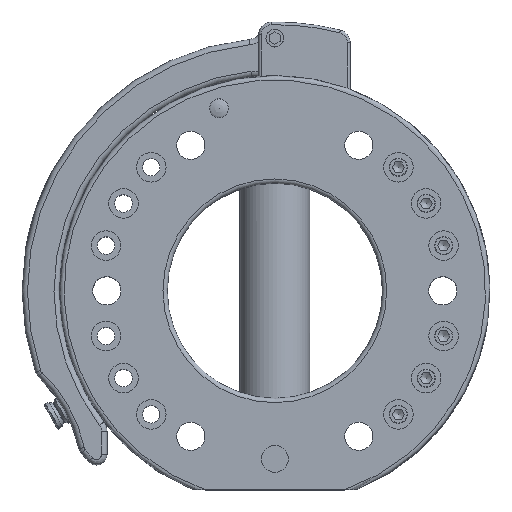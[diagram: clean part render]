
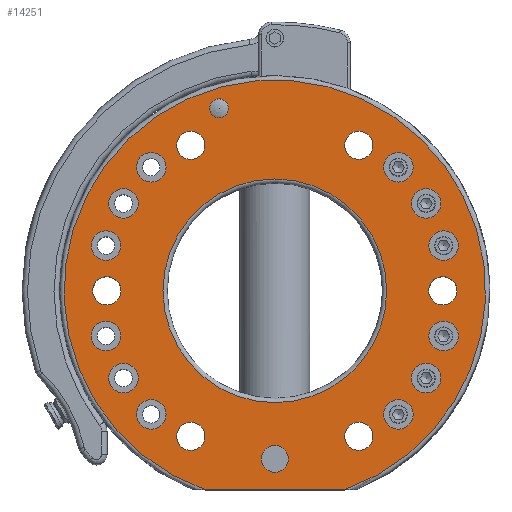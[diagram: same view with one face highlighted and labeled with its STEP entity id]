
A CAD part, top view. The second image highlights one B-rep face of the part: STEP entity #14251.
In plain terms, the highlighted planar face has unit normal (0, 0, 1).
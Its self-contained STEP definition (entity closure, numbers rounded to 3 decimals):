
#912=FACE_BOUND('',#3104,.T.);
#913=FACE_BOUND('',#3105,.T.);
#914=FACE_BOUND('',#3106,.T.);
#915=FACE_BOUND('',#3107,.T.);
#916=FACE_BOUND('',#3108,.T.);
#917=FACE_BOUND('',#3109,.T.);
#918=FACE_BOUND('',#3110,.T.);
#919=FACE_BOUND('',#3111,.T.);
#920=FACE_BOUND('',#3112,.T.);
#921=FACE_BOUND('',#3113,.T.);
#922=FACE_BOUND('',#3114,.T.);
#923=FACE_BOUND('',#3115,.T.);
#924=FACE_BOUND('',#3116,.T.);
#925=FACE_BOUND('',#3117,.T.);
#926=FACE_BOUND('',#3118,.T.);
#927=FACE_BOUND('',#3119,.T.);
#928=FACE_BOUND('',#3120,.T.);
#929=FACE_BOUND('',#3121,.T.);
#930=FACE_BOUND('',#3122,.T.);
#931=FACE_BOUND('',#3123,.T.);
#932=FACE_BOUND('',#3124,.T.);
#1222=PLANE('',#15475);
#2174=FACE_OUTER_BOUND('',#3103,.T.);
#3103=EDGE_LOOP('',(#12264,#12265));
#3104=EDGE_LOOP('',(#12266));
#3105=EDGE_LOOP('',(#12267));
#3106=EDGE_LOOP('',(#12268));
#3107=EDGE_LOOP('',(#12269));
#3108=EDGE_LOOP('',(#12270));
#3109=EDGE_LOOP('',(#12271));
#3110=EDGE_LOOP('',(#12272));
#3111=EDGE_LOOP('',(#12273));
#3112=EDGE_LOOP('',(#12274));
#3113=EDGE_LOOP('',(#12275));
#3114=EDGE_LOOP('',(#12276));
#3115=EDGE_LOOP('',(#12277));
#3116=EDGE_LOOP('',(#12278));
#3117=EDGE_LOOP('',(#12279));
#3118=EDGE_LOOP('',(#12280));
#3119=EDGE_LOOP('',(#12281));
#3120=EDGE_LOOP('',(#12282));
#3121=EDGE_LOOP('',(#12283));
#3122=EDGE_LOOP('',(#12284));
#3123=EDGE_LOOP('',(#12285));
#3124=EDGE_LOOP('',(#12286));
#3968=LINE('',#62548,#4747);
#4747=VECTOR('',#18572,10.);
#5240=CIRCLE('',#15329,5.5);
#5243=CIRCLE('',#15334,5.5);
#5246=CIRCLE('',#15339,5.5);
#5249=CIRCLE('',#15344,5.5);
#5251=CIRCLE('',#15348,5.5);
#5253=CIRCLE('',#15352,5.5);
#5255=CIRCLE('',#15356,5.5);
#5257=CIRCLE('',#15360,5.5);
#5259=CIRCLE('',#15364,5.5);
#5261=CIRCLE('',#15368,5.5);
#5264=CIRCLE('',#15373,5.5);
#5267=CIRCLE('',#15378,5.5);
#5281=CIRCLE('',#15409,5.25);
#5284=CIRCLE('',#15415,5.25);
#5287=CIRCLE('',#15421,5.25);
#5289=CIRCLE('',#15425,5.25);
#5292=CIRCLE('',#15431,5.25);
#5295=CIRCLE('',#15437,5.25);
#5296=CIRCLE('',#15439,3.5);
#5297=CIRCLE('',#15441,5.);
#5312=CIRCLE('',#15473,41.6);
#5314=CIRCLE('',#15476,78.4);
#6548=VERTEX_POINT('',#62266);
#6551=VERTEX_POINT('',#62275);
#6554=VERTEX_POINT('',#62284);
#6557=VERTEX_POINT('',#62293);
#6559=VERTEX_POINT('',#62300);
#6561=VERTEX_POINT('',#62307);
#6563=VERTEX_POINT('',#62314);
#6565=VERTEX_POINT('',#62321);
#6567=VERTEX_POINT('',#62328);
#6569=VERTEX_POINT('',#62335);
#6572=VERTEX_POINT('',#62344);
#6575=VERTEX_POINT('',#62353);
#6589=VERTEX_POINT('',#62413);
#6592=VERTEX_POINT('',#62424);
#6595=VERTEX_POINT('',#62435);
#6597=VERTEX_POINT('',#62442);
#6600=VERTEX_POINT('',#62453);
#6603=VERTEX_POINT('',#62464);
#6604=VERTEX_POINT('',#62468);
#6605=VERTEX_POINT('',#62472);
#6625=VERTEX_POINT('',#62534);
#6626=VERTEX_POINT('',#62547);
#6628=VERTEX_POINT('',#62566);
#8409=EDGE_CURVE('',#6548,#6548,#5240,.T.);
#8413=EDGE_CURVE('',#6551,#6551,#5243,.T.);
#8417=EDGE_CURVE('',#6554,#6554,#5246,.T.);
#8421=EDGE_CURVE('',#6557,#6557,#5249,.T.);
#8424=EDGE_CURVE('',#6559,#6559,#5251,.T.);
#8427=EDGE_CURVE('',#6561,#6561,#5253,.T.);
#8430=EDGE_CURVE('',#6563,#6563,#5255,.T.);
#8433=EDGE_CURVE('',#6565,#6565,#5257,.T.);
#8436=EDGE_CURVE('',#6567,#6567,#5259,.T.);
#8439=EDGE_CURVE('',#6569,#6569,#5261,.T.);
#8443=EDGE_CURVE('',#6572,#6572,#5264,.T.);
#8447=EDGE_CURVE('',#6575,#6575,#5267,.T.);
#8477=EDGE_CURVE('',#6589,#6589,#5281,.T.);
#8482=EDGE_CURVE('',#6592,#6592,#5284,.T.);
#8487=EDGE_CURVE('',#6595,#6595,#5287,.T.);
#8490=EDGE_CURVE('',#6597,#6597,#5289,.T.);
#8495=EDGE_CURVE('',#6600,#6600,#5292,.T.);
#8500=EDGE_CURVE('',#6603,#6603,#5295,.T.);
#8501=EDGE_CURVE('',#6604,#6604,#5296,.T.);
#8503=EDGE_CURVE('',#6605,#6605,#5297,.T.);
#8531=EDGE_CURVE('',#6626,#6625,#3968,.T.);
#8535=EDGE_CURVE('',#6628,#6628,#5312,.T.);
#8537=EDGE_CURVE('',#6626,#6625,#5314,.T.);
#12264=ORIENTED_EDGE('',*,*,#8531,.T.);
#12265=ORIENTED_EDGE('',*,*,#8537,.F.);
#12266=ORIENTED_EDGE('',*,*,#8409,.T.);
#12267=ORIENTED_EDGE('',*,*,#8413,.T.);
#12268=ORIENTED_EDGE('',*,*,#8417,.T.);
#12269=ORIENTED_EDGE('',*,*,#8421,.T.);
#12270=ORIENTED_EDGE('',*,*,#8424,.T.);
#12271=ORIENTED_EDGE('',*,*,#8427,.T.);
#12272=ORIENTED_EDGE('',*,*,#8430,.T.);
#12273=ORIENTED_EDGE('',*,*,#8433,.T.);
#12274=ORIENTED_EDGE('',*,*,#8436,.T.);
#12275=ORIENTED_EDGE('',*,*,#8439,.T.);
#12276=ORIENTED_EDGE('',*,*,#8443,.T.);
#12277=ORIENTED_EDGE('',*,*,#8447,.T.);
#12278=ORIENTED_EDGE('',*,*,#8477,.T.);
#12279=ORIENTED_EDGE('',*,*,#8482,.T.);
#12280=ORIENTED_EDGE('',*,*,#8487,.T.);
#12281=ORIENTED_EDGE('',*,*,#8490,.T.);
#12282=ORIENTED_EDGE('',*,*,#8495,.T.);
#12283=ORIENTED_EDGE('',*,*,#8500,.T.);
#12284=ORIENTED_EDGE('',*,*,#8501,.T.);
#12285=ORIENTED_EDGE('',*,*,#8503,.T.);
#12286=ORIENTED_EDGE('',*,*,#8535,.F.);
#14251=ADVANCED_FACE('',(#2174,#912,#913,#914,#915,#916,#917,#918,#919,
#920,#921,#922,#923,#924,#925,#926,#927,#928,#929,#930,#931,#932),#1222,
 .T.);
#15329=AXIS2_PLACEMENT_3D('',#62267,#18240,#18241);
#15334=AXIS2_PLACEMENT_3D('',#62276,#18251,#18252);
#15339=AXIS2_PLACEMENT_3D('',#62285,#18262,#18263);
#15344=AXIS2_PLACEMENT_3D('',#62294,#18273,#18274);
#15348=AXIS2_PLACEMENT_3D('',#62301,#18282,#18283);
#15352=AXIS2_PLACEMENT_3D('',#62308,#18291,#18292);
#15356=AXIS2_PLACEMENT_3D('',#62315,#18300,#18301);
#15360=AXIS2_PLACEMENT_3D('',#62322,#18309,#18310);
#15364=AXIS2_PLACEMENT_3D('',#62329,#18318,#18319);
#15368=AXIS2_PLACEMENT_3D('',#62336,#18327,#18328);
#15373=AXIS2_PLACEMENT_3D('',#62345,#18338,#18339);
#15378=AXIS2_PLACEMENT_3D('',#62354,#18349,#18350);
#15409=AXIS2_PLACEMENT_3D('',#62415,#18427,#18428);
#15415=AXIS2_PLACEMENT_3D('',#62426,#18441,#18442);
#15421=AXIS2_PLACEMENT_3D('',#62437,#18455,#18456);
#15425=AXIS2_PLACEMENT_3D('',#62444,#18464,#18465);
#15431=AXIS2_PLACEMENT_3D('',#62455,#18478,#18479);
#15437=AXIS2_PLACEMENT_3D('',#62466,#18492,#18493);
#15439=AXIS2_PLACEMENT_3D('',#62469,#18496,#18497);
#15441=AXIS2_PLACEMENT_3D('',#62473,#18501,#18502);
#15473=AXIS2_PLACEMENT_3D('',#62567,#18580,#18581);
#15475=AXIS2_PLACEMENT_3D('',#62569,#18584,#18585);
#15476=AXIS2_PLACEMENT_3D('',#62570,#18586,#18587);
#18240=DIRECTION('center_axis',(0.,0.,-1.));
#18241=DIRECTION('ref_axis',(-1.,0.,0.));
#18251=DIRECTION('center_axis',(0.,0.,-1.));
#18252=DIRECTION('ref_axis',(-1.,0.,0.));
#18262=DIRECTION('center_axis',(0.,0.,-1.));
#18263=DIRECTION('ref_axis',(-1.,0.,0.));
#18273=DIRECTION('center_axis',(0.,0.,-1.));
#18274=DIRECTION('ref_axis',(-1.,0.,0.));
#18282=DIRECTION('center_axis',(0.,0.,-1.));
#18283=DIRECTION('ref_axis',(-1.,0.,0.));
#18291=DIRECTION('center_axis',(0.,0.,-1.));
#18292=DIRECTION('ref_axis',(-1.,0.,0.));
#18300=DIRECTION('center_axis',(0.,0.,-1.));
#18301=DIRECTION('ref_axis',(-1.,0.,0.));
#18309=DIRECTION('center_axis',(0.,0.,-1.));
#18310=DIRECTION('ref_axis',(-1.,0.,0.));
#18318=DIRECTION('center_axis',(0.,0.,-1.));
#18319=DIRECTION('ref_axis',(-1.,0.,0.));
#18327=DIRECTION('center_axis',(0.,0.,-1.));
#18328=DIRECTION('ref_axis',(-1.,0.,0.));
#18338=DIRECTION('center_axis',(0.,0.,-1.));
#18339=DIRECTION('ref_axis',(-1.,0.,0.));
#18349=DIRECTION('center_axis',(0.,0.,-1.));
#18350=DIRECTION('ref_axis',(-1.,0.,0.));
#18427=DIRECTION('center_axis',(0.,0.,-1.));
#18428=DIRECTION('ref_axis',(-1.,0.,0.));
#18441=DIRECTION('center_axis',(0.,0.,-1.));
#18442=DIRECTION('ref_axis',(-1.,0.,0.));
#18455=DIRECTION('center_axis',(0.,0.,-1.));
#18456=DIRECTION('ref_axis',(-1.,0.,0.));
#18464=DIRECTION('center_axis',(0.,0.,-1.));
#18465=DIRECTION('ref_axis',(-1.,0.,0.));
#18478=DIRECTION('center_axis',(0.,0.,-1.));
#18479=DIRECTION('ref_axis',(-1.,0.,0.));
#18492=DIRECTION('center_axis',(0.,0.,-1.));
#18493=DIRECTION('ref_axis',(-1.,0.,0.));
#18496=DIRECTION('center_axis',(0.,0.,-1.));
#18497=DIRECTION('ref_axis',(1.,0.,0.));
#18501=DIRECTION('center_axis',(0.,0.,-1.));
#18502=DIRECTION('ref_axis',(1.,0.,0.));
#18572=DIRECTION('',(1.,0.,0.));
#18580=DIRECTION('center_axis',(0.,0.,1.));
#18581=DIRECTION('ref_axis',(-1.,0.,0.));
#18584=DIRECTION('center_axis',(0.,0.,1.));
#18585=DIRECTION('ref_axis',(1.,0.,0.));
#18586=DIRECTION('center_axis',(0.,0.,-1.));
#18587=DIRECTION('ref_axis',(-1.,0.,0.));
#62266=CARTESIAN_POINT('',(-50.792,32.5,50.));
#62267=CARTESIAN_POINT('Origin',(-56.292,32.5,50.));
#62275=CARTESIAN_POINT('',(-57.285,-16.823,50.));
#62276=CARTESIAN_POINT('Origin',(-62.785,-16.823,50.));
#62284=CARTESIAN_POINT('',(-40.462,-45.962,50.));
#62285=CARTESIAN_POINT('Origin',(-45.962,-45.962,50.));
#62293=CARTESIAN_POINT('',(61.792,-32.5,50.));
#62294=CARTESIAN_POINT('Origin',(56.292,-32.5,50.));
#62300=CARTESIAN_POINT('',(68.285,16.823,50.));
#62301=CARTESIAN_POINT('Origin',(62.785,16.823,50.));
#62307=CARTESIAN_POINT('',(51.462,45.962,50.));
#62308=CARTESIAN_POINT('Origin',(45.962,45.962,50.));
#62314=CARTESIAN_POINT('',(61.792,32.5,50.));
#62315=CARTESIAN_POINT('Origin',(56.292,32.5,50.));
#62321=CARTESIAN_POINT('',(68.285,-16.823,50.));
#62322=CARTESIAN_POINT('Origin',(62.785,-16.823,50.));
#62328=CARTESIAN_POINT('',(51.462,-45.962,50.));
#62329=CARTESIAN_POINT('Origin',(45.962,-45.962,50.));
#62335=CARTESIAN_POINT('',(-50.792,-32.5,50.));
#62336=CARTESIAN_POINT('Origin',(-56.292,-32.5,50.));
#62344=CARTESIAN_POINT('',(-57.285,16.823,50.));
#62345=CARTESIAN_POINT('Origin',(-62.785,16.823,50.));
#62353=CARTESIAN_POINT('',(-40.462,45.962,50.));
#62354=CARTESIAN_POINT('Origin',(-45.962,45.962,50.));
#62413=CARTESIAN_POINT('',(-57.25,0.,50.));
#62415=CARTESIAN_POINT('Origin',(-62.5,0.,50.));
#62424=CARTESIAN_POINT('',(36.5,54.127,50.));
#62426=CARTESIAN_POINT('Origin',(31.25,54.127,50.));
#62435=CARTESIAN_POINT('',(-26.,-54.127,50.));
#62437=CARTESIAN_POINT('Origin',(-31.25,-54.127,50.));
#62442=CARTESIAN_POINT('',(36.5,-54.127,50.));
#62444=CARTESIAN_POINT('Origin',(31.25,-54.127,50.));
#62453=CARTESIAN_POINT('',(-26.,54.127,50.));
#62455=CARTESIAN_POINT('Origin',(-31.25,54.127,50.));
#62464=CARTESIAN_POINT('',(67.75,0.,50.));
#62466=CARTESIAN_POINT('Origin',(62.5,0.,50.));
#62468=CARTESIAN_POINT('',(-24.258,67.898,50.));
#62469=CARTESIAN_POINT('Origin',(-20.758,67.898,50.));
#62472=CARTESIAN_POINT('',(-5.,-62.5,50.));
#62473=CARTESIAN_POINT('Origin',(0.,-62.5,50.));
#62534=CARTESIAN_POINT('',(25.895,-74.,50.));
#62547=CARTESIAN_POINT('',(-25.895,-74.,50.));
#62548=CARTESIAN_POINT('',(-15.199,-74.,50.));
#62566=CARTESIAN_POINT('',(41.6,0.,50.));
#62567=CARTESIAN_POINT('Origin',(0.,0.,50.));
#62569=CARTESIAN_POINT('Origin',(0.,0.,50.));
#62570=CARTESIAN_POINT('Origin',(0.,0.,50.));
